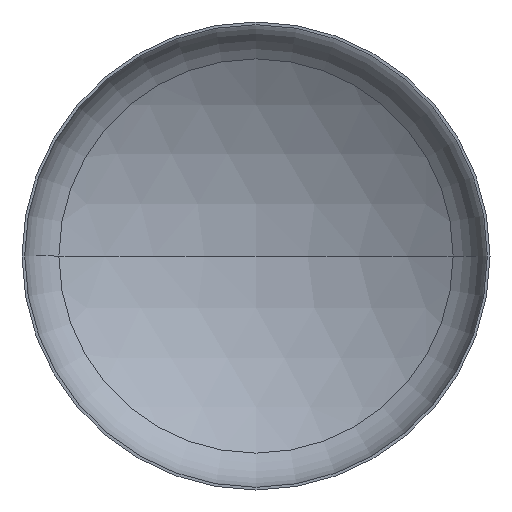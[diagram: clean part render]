
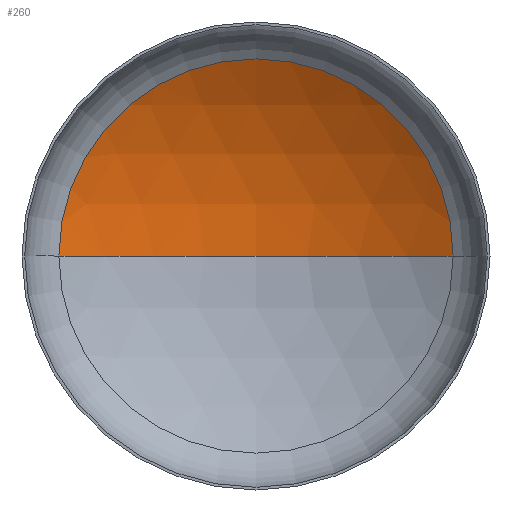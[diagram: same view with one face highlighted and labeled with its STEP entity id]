
A CAD part, front view. The second image highlights one B-rep face of the part: STEP entity #260.
In plain terms, the highlighted spherical face has radius 960 mm.
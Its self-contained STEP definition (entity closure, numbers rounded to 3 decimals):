
#5 = AXIS2_PLACEMENT_3D ( 'NONE', #180, #356, #148 ) ;
#7 = ORIENTED_EDGE ( 'NONE', *, *, #344, .T. ) ;
#22 = AXIS2_PLACEMENT_3D ( 'NONE', #129, #170, #161 ) ;
#29 = AXIS2_PLACEMENT_3D ( 'NONE', #185, #237, #71 ) ;
#33 = EDGE_LOOP ( 'NONE', ( #37, #7, #144 ) ) ;
#37 = ORIENTED_EDGE ( 'NONE', *, *, #321, .F. ) ;
#57 = VERTEX_POINT ( 'NONE', #244 ) ;
#71 = DIRECTION ( 'NONE',  ( -1., 0., 0. ) ) ;
#116 = FACE_OUTER_BOUND ( 'NONE', #33, .T. ) ;
#124 = VERTEX_POINT ( 'NONE', #203 ) ;
#129 = CARTESIAN_POINT ( 'NONE',  ( 0., -633.909, 0. ) ) ;
#144 = ORIENTED_EDGE ( 'NONE', *, *, #343, .T. ) ;
#148 = DIRECTION ( 'NONE',  ( 1., 0., 0. ) ) ;
#161 = DIRECTION ( 'NONE',  ( 1., 0., 0. ) ) ;
#170 = DIRECTION ( 'NONE',  ( 0., 0., 1. ) ) ;
#180 = CARTESIAN_POINT ( 'NONE',  ( 0., 182.288, 0. ) ) ;
#185 = CARTESIAN_POINT ( 'NONE',  ( 0., -633.909, 0. ) ) ;
#188 = CARTESIAN_POINT ( 'NONE',  ( 0., -633.909, 0. ) ) ;
#203 = CARTESIAN_POINT ( 'NONE',  ( 0., 326.091, 0. ) ) ;
#204 = VERTEX_POINT ( 'NONE', #259 ) ;
#237 = DIRECTION ( 'NONE',  ( 0., 0., -1. ) ) ;
#244 = CARTESIAN_POINT ( 'NONE',  ( -505.394, 182.288, 0. ) ) ;
#259 = CARTESIAN_POINT ( 'NONE',  ( 505.394, 182.288, 0. ) ) ;
#260 = ADVANCED_FACE ( 'NONE', ( #116 ), #335, .F. ) ;
#267 = CIRCLE ( 'NONE', #22, 960. ) ;
#292 = AXIS2_PLACEMENT_3D ( 'NONE', #188, #352, #305 ) ;
#305 = DIRECTION ( 'NONE',  ( -1., 0., 0. ) ) ;
#321 = EDGE_CURVE ( 'NONE', #124, #57, #267, .T. ) ;
#324 = CIRCLE ( 'NONE', #292, 960. ) ;
#335 = SPHERICAL_SURFACE ( 'NONE', #29, 960. ) ;
#343 = EDGE_CURVE ( 'NONE', #204, #57, #383, .T. ) ;
#344 = EDGE_CURVE ( 'NONE', #124, #204, #324, .T. ) ;
#352 = DIRECTION ( 'NONE',  ( 0., 0., -1. ) ) ;
#356 = DIRECTION ( 'NONE',  ( 0., -1., 0. ) ) ;
#383 = CIRCLE ( 'NONE', #5, 505.394 ) ;
